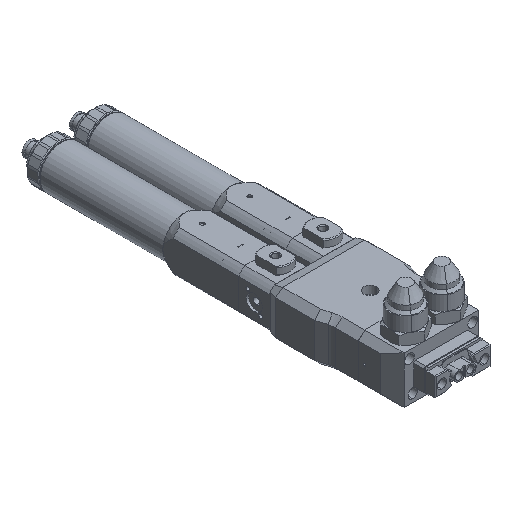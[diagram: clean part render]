
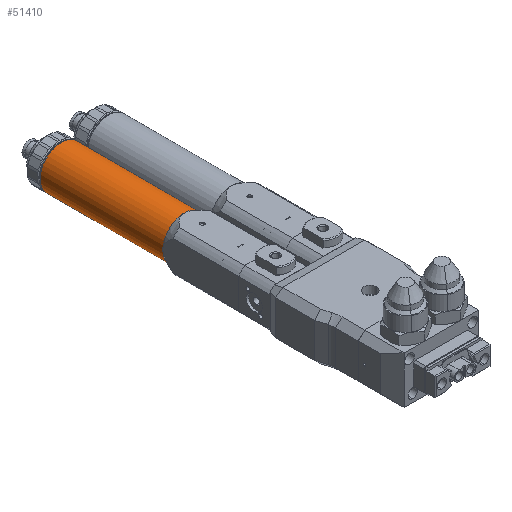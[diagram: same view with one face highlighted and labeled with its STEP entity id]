
A CAD part, isometric view. The second image highlights one B-rep face of the part: STEP entity #51410.
In plain terms, the highlighted cylindrical face has radius 13.5 mm (diameter 27 mm), a full revolution.
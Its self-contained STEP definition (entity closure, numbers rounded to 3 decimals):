
#1756 = DIRECTION ( 'NONE',  ( 1., 0., 0. ) ) ;
#1757 = EDGE_LOOP ( 'NONE', ( #53051, #13994 ) ) ;
#4413 = CYLINDRICAL_SURFACE ( 'NONE', #16503, 13.5 ) ;
#4789 = VERTEX_POINT ( 'NONE', #30820 ) ;
#4992 = AXIS2_PLACEMENT_3D ( 'NONE', #12785, #47189, #20892 ) ;
#5756 = EDGE_CURVE ( 'NONE', #26267, #14071, #21571, .T. ) ;
#6110 = CARTESIAN_POINT ( 'NONE',  ( -67.638, 108.89, 998.602 ) ) ;
#6605 = EDGE_LOOP ( 'NONE', ( #24173 ) ) ;
#9318 = DIRECTION ( 'NONE',  ( 1., 0., 0. ) ) ;
#12785 = CARTESIAN_POINT ( 'NONE',  ( -67.638, 31.09, 998.602 ) ) ;
#13381 = CARTESIAN_POINT ( 'NONE',  ( -67.638, 28.009, 998.602 ) ) ;
#13994 = ORIENTED_EDGE ( 'NONE', *, *, #5756, .T. ) ;
#14071 = VERTEX_POINT ( 'NONE', #23156 ) ;
#16503 = AXIS2_PLACEMENT_3D ( 'NONE', #13381, #36204, #9318 ) ;
#20892 = DIRECTION ( 'NONE',  ( 1., 0., 0. ) ) ;
#21571 = CIRCLE ( 'NONE', #39142, 13.5 ) ;
#22056 = FACE_OUTER_BOUND ( 'NONE', #1757, .T. ) ;
#23156 = CARTESIAN_POINT ( 'NONE',  ( -54.138, 108.89, 998.602 ) ) ;
#23750 = DIRECTION ( 'NONE',  ( 0., -1., 0. ) ) ;
#24173 = ORIENTED_EDGE ( 'NONE', *, *, #41757, .T. ) ;
#25272 = CIRCLE ( 'NONE', #4992, 13.5 ) ;
#25320 = EDGE_CURVE ( 'NONE', #14071, #26267, #34229, .T. ) ;
#26267 = VERTEX_POINT ( 'NONE', #28160 ) ;
#28160 = CARTESIAN_POINT ( 'NONE',  ( -81.138, 108.89, 998.602 ) ) ;
#30820 = CARTESIAN_POINT ( 'NONE',  ( -54.138, 31.09, 998.602 ) ) ;
#34179 = DIRECTION ( 'NONE',  ( 1., 0., 0. ) ) ;
#34229 = CIRCLE ( 'NONE', #45349, 13.5 ) ;
#36204 = DIRECTION ( 'NONE',  ( 0., -1., 0. ) ) ;
#39142 = AXIS2_PLACEMENT_3D ( 'NONE', #6110, #23750, #1756 ) ;
#41757 = EDGE_CURVE ( 'NONE', #4789, #4789, #25272, .T. ) ;
#45349 = AXIS2_PLACEMENT_3D ( 'NONE', #51247, #52104, #34179 ) ;
#47189 = DIRECTION ( 'NONE',  ( 0., 1., 0. ) ) ;
#51247 = CARTESIAN_POINT ( 'NONE',  ( -67.638, 108.89, 998.602 ) ) ;
#51410 = ADVANCED_FACE ( 'NONE', ( #52685, #22056 ), #4413, .T. ) ;
#52104 = DIRECTION ( 'NONE',  ( 0., -1., 0. ) ) ;
#52685 = FACE_OUTER_BOUND ( 'NONE', #6605, .T. ) ;
#53051 = ORIENTED_EDGE ( 'NONE', *, *, #25320, .T. ) ;
